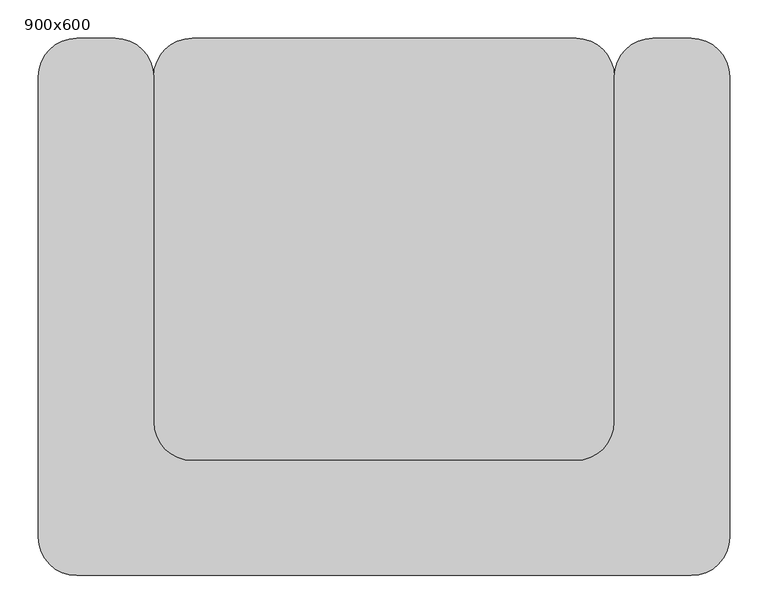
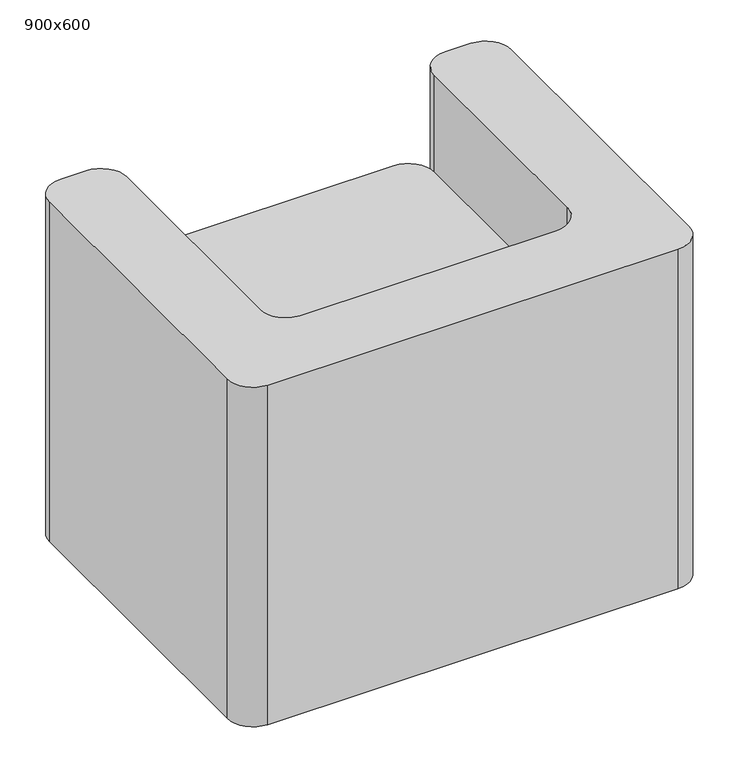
"""IFC4 building model written with IfcOpenShell, lengths in millimetres: furniture geometry, Fu_кресло_большое_LEG : 900x600."""

from ifc_helpers import new_model, si_unit, point, frame_2d, origin, origin_with_axes, place, context, project, spatial, polyline, circle_curve, trimmed, segment, composite_curve, outline, extrude, source, transform, mapped, element, save


def furniture_900x600_84977c98(model_context):
    return source(origin(), model_context, "Body", "SweptSolid", [
        extrude(outline(composite_curve([segment(polyline([(-185.7, -349.9263613), (-185.7, 100.0736387)]), True, "CONTINUOUS"), segment(trimmed(circle_curve(frame_2d((-135.7, 100.0736387)), 50.0), [point((-185.7, 100.0736387))], [point((-135.7, 150.0736387))], False, "CARTESIAN"), True, "CONTINUOUS"), segment(polyline([(-135.7, 150.0736387), (364.3, 150.0736387)]), True, "CONTINUOUS"), segment(trimmed(circle_curve(frame_2d((364.3, 100.0736387)), 50.0), [point((364.3, 150.0736387))], [point((414.3, 100.0736387))], False, "CARTESIAN"), True, "CONTINUOUS"), segment(polyline([(414.3, 100.0736387), (414.3, -349.9263613)]), True, "CONTINUOUS"), segment(trimmed(circle_curve(frame_2d((364.3, -349.9263613)), 50.0), [point((414.3, -349.9263613))], [point((364.3, -399.9263613))], False, "CARTESIAN"), True, "CONTINUOUS"), segment(polyline([(364.3, -399.9263613), (-135.7, -399.9263613)]), True, "CONTINUOUS"), segment(trimmed(circle_curve(frame_2d((-135.7, -349.9263613)), 50.0), [point((-135.7, -399.9263613))], [point((-185.7, -349.9263613))], False, "CARTESIAN"), True, "CONTINUOUS")], self_intersect=False)), origin_with_axes(), (0.0, 0.0, 1.0), 500.0),
        extrude(outline(composite_curve([segment(polyline([(514.3, -549.9263613), (-285.7, -549.9263613)]), True, "CONTINUOUS"), segment(trimmed(circle_curve(frame_2d((-285.7, -499.9263613)), 50.0), [point((-285.7, -549.9263613))], [point((-335.7, -499.9263613))], False, "CARTESIAN"), True, "CONTINUOUS"), segment(polyline([(-335.7, -499.9263613), (-335.7, 100.0736387)]), True, "CONTINUOUS"), segment(trimmed(circle_curve(frame_2d((-285.7, 100.0736387)), 50.0), [point((-335.7, 100.0736387))], [point((-285.7, 150.0736387))], False, "CARTESIAN"), True, "CONTINUOUS"), segment(polyline([(-285.7, 150.0736387), (-235.7, 150.0736387)]), True, "CONTINUOUS"), segment(trimmed(circle_curve(frame_2d((-235.7, 100.0736387)), 50.0), [point((-235.7, 150.0736387))], [point((-185.7, 100.0736387))], False, "CARTESIAN"), True, "CONTINUOUS"), segment(polyline([(-185.7, 100.0736387), (-185.7, -349.9263613)]), True, "CONTINUOUS"), segment(trimmed(circle_curve(frame_2d((-135.7, -349.9263613)), 50.0), [point((-185.7, -349.9263613))], [point((-135.7, -399.9263613))], True, "CARTESIAN"), True, "CONTINUOUS"), segment(polyline([(-135.7, -399.9263613), (364.3, -399.9263613)]), True, "CONTINUOUS"), segment(trimmed(circle_curve(frame_2d((364.3, -349.9263613)), 50.0), [point((364.3, -399.9263613))], [point((414.3, -349.9263613))], True, "CARTESIAN"), True, "CONTINUOUS"), segment(polyline([(414.3, -349.9263613), (414.3, 100.0736387)]), True, "CONTINUOUS"), segment(trimmed(circle_curve(frame_2d((464.3, 100.0736387)), 50.0), [point((414.3, 100.0736387))], [point((464.3, 150.0736387))], False, "CARTESIAN"), True, "CONTINUOUS"), segment(polyline([(464.3, 150.0736387), (514.3, 150.0736387)]), True, "CONTINUOUS"), segment(trimmed(circle_curve(frame_2d((514.3, 100.0736387)), 50.0), [point((514.3, 150.0736387))], [point((564.3, 100.0736387))], False, "CARTESIAN"), True, "CONTINUOUS"), segment(polyline([(564.3, 100.0736387), (564.3, -499.9263613)]), True, "CONTINUOUS"), segment(trimmed(circle_curve(frame_2d((514.3, -499.9263613)), 50.0), [point((564.3, -499.9263613))], [point((514.3, -549.9263613))], False, "CARTESIAN"), True, "CONTINUOUS")], self_intersect=False)), origin_with_axes(), (0.0, 0.0, 1.0), 700.0),
    ])


if __name__ == "__main__":
    model = new_model("IFC4")
    model_context = context("Model", 3, world=origin())
    ifc_project = project(units=[si_unit("LENGTHUNIT", "METRE", prefix="MILLI")], contexts=[model_context])
    site = spatial("IfcSite", under=ifc_project)
    building = spatial("IfcBuilding", under=site)
    placement = place(None, origin())
    furniture_900x600_shape = furniture_900x600_84977c98(model_context)
    element("IfcFurniture", 1, ObjectType="Fu_кресло_большое_LEG : 900x600", at=placement, inside=building, context=model_context, shape_type="MappedRepresentation", body=[
        mapped(furniture_900x600_shape, transform((0.0, 0.0, 0.0), x_axis=(1.0, 0.0, 0.0), y_axis=(0.0, 1.0, 0.0), z_axis=(0.0, 0.0, 1.0))),
    ])
    save(model, "model.ifc")
